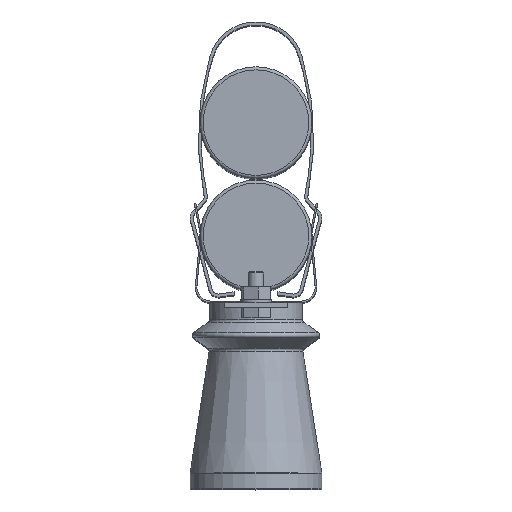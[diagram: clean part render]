
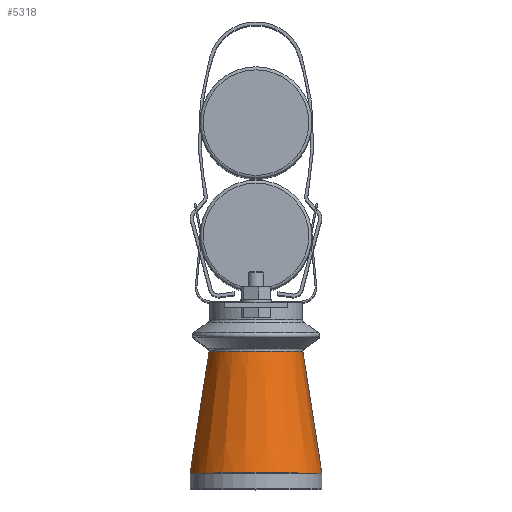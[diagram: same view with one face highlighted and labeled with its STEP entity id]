
A CAD part, top view. The second image highlights one B-rep face of the part: STEP entity #5318.
In plain terms, the highlighted conical face has half-angle 8.881 degrees and reference radius 30 mm.
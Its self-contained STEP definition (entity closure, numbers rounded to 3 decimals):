
#85 = VERTEX_POINT ( 'NONE', #3780 ) ;
#172 = CARTESIAN_POINT ( 'NONE',  ( 0., 90., 192.5 ) ) ;
#194 = DIRECTION ( 'NONE',  ( -1., 0., 0. ) ) ;
#256 = ORIENTED_EDGE ( 'NONE', *, *, #5922, .T. ) ;
#566 = DIRECTION ( 'NONE',  ( 0., -1., 0. ) ) ;
#1351 = AXIS2_PLACEMENT_3D ( 'NONE', #5108, #6104, #6157 ) ;
#1384 = EDGE_LOOP ( 'NONE', ( #4149 ) ) ;
#1471 = CONICAL_SURFACE ( 'NONE', #3092, 30., 0.155 ) ;
#1650 = FACE_OUTER_BOUND ( 'NONE', #1384, .T. ) ;
#1808 = FACE_BOUND ( 'NONE', #6877, .T. ) ;
#2239 = CIRCLE ( 'NONE', #2330, 30.19 ) ;
#2330 = AXIS2_PLACEMENT_3D ( 'NONE', #4899, #4876, #4849 ) ;
#3092 = AXIS2_PLACEMENT_3D ( 'NONE', #172, #566, #194 ) ;
#3780 = CARTESIAN_POINT ( 'NONE',  ( 42.476, 10.153, 192.5 ) ) ;
#4149 = ORIENTED_EDGE ( 'NONE', *, *, #6412, .T. ) ;
#4437 = VERTEX_POINT ( 'NONE', #6517 ) ;
#4849 = DIRECTION ( 'NONE',  ( -1., 0., 0. ) ) ;
#4876 = DIRECTION ( 'NONE',  ( 0., -1., 0. ) ) ;
#4899 = CARTESIAN_POINT ( 'NONE',  ( 0., 88.786, 192.5 ) ) ;
#5108 = CARTESIAN_POINT ( 'NONE',  ( 0., 10.153, 192.5 ) ) ;
#5128 = CIRCLE ( 'NONE', #1351, 42.476 ) ;
#5318 = ADVANCED_FACE ( 'NONE', ( #1650, #1808 ), #1471, .T. ) ;
#5922 = EDGE_CURVE ( 'NONE', #4437, #4437, #2239, .T. ) ;
#6104 = DIRECTION ( 'NONE',  ( 0., 1., 0. ) ) ;
#6157 = DIRECTION ( 'NONE',  ( 1., 0., 0. ) ) ;
#6412 = EDGE_CURVE ( 'NONE', #85, #85, #5128, .T. ) ;
#6517 = CARTESIAN_POINT ( 'NONE',  ( -30.19, 88.786, 192.5 ) ) ;
#6877 = EDGE_LOOP ( 'NONE', ( #256 ) ) ;
